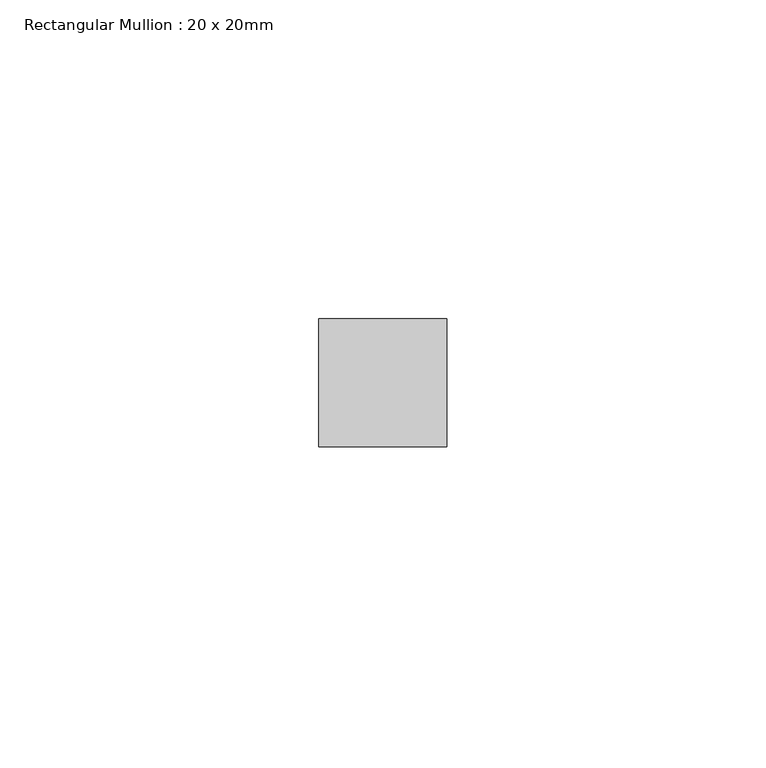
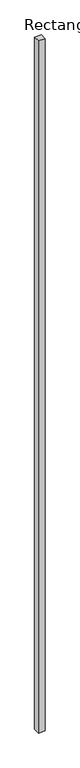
"""IFC4 building model written with IfcOpenShell, lengths in millimetres: member geometry, Rectangular Mullion : 20 x 20mm."""

from ifc_helpers import new_model, si_unit, frame, origin, place, context, project, spatial, polyline, outline, extrude, source, transform, mapped, element, save


def rectangular_mullion_20_x_20mm_cb61bcfb(model_context):
    return source(origin(), model_context, "Body", "SweptSolid", [
        extrude(outline(polyline([(0.0, 10.0), (0.0, -10.0), (-20.0, -10.0), (-20.0, 10.0), (0.0, 10.0)])), frame((0.0, 0.0, -2184.8011538), z_axis=(0.0, 0.0, 1.0), x_axis=(1.0, 0.0, 0.0)), (0.0, 0.0, 1.0), 2184.8011538),
    ])


if __name__ == "__main__":
    model = new_model("IFC4")
    model_context = context("Model", 3, world=origin())
    ifc_project = project(units=[si_unit("LENGTHUNIT", "METRE", prefix="MILLI")], contexts=[model_context])
    site = spatial("IfcSite", under=ifc_project)
    building = spatial("IfcBuilding", under=site)
    placement = place(None, origin())
    rectangular_mullion_20_x_20mm_shape = rectangular_mullion_20_x_20mm_cb61bcfb(model_context)
    element("IfcMember", 1, ObjectType="Rectangular Mullion : 20 x 20mm", at=placement, inside=building, context=model_context, shape_type="MappedRepresentation", body=[
        mapped(rectangular_mullion_20_x_20mm_shape, transform((0.0, 0.0, 0.0), x_axis=(1.0, 0.0, 0.0), y_axis=(0.0, 1.0, 0.0), z_axis=(0.0, 0.0, 1.0))),
    ])
    save(model, "model.ifc")
